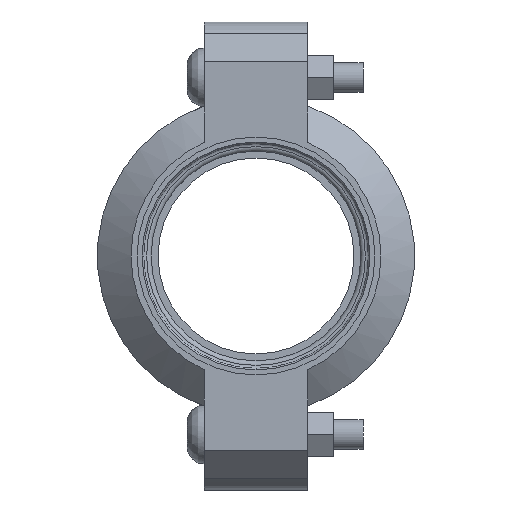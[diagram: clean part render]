
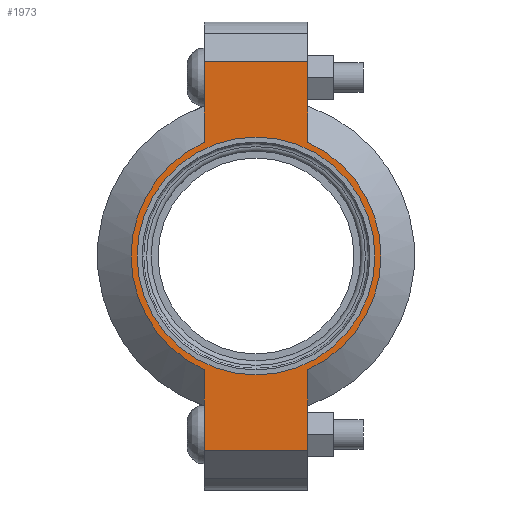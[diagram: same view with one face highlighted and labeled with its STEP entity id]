
A CAD part, left-side view. The second image highlights one B-rep face of the part: STEP entity #1973.
In plain terms, the highlighted planar face has unit normal (-1, 0, 0) as drawn and (0, 0, 1) by its records, which use the part's own axes.
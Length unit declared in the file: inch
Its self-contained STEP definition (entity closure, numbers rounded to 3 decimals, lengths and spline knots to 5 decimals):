
#144=LINE('',#3511,#243);
#157=LINE('',#3555,#256);
#162=LINE('',#3579,#261);
#169=LINE('',#3597,#268);
#176=LINE('',#3622,#275);
#177=LINE('',#3625,#276);
#243=VECTOR('',#2837,0.3937);
#256=VECTOR('',#2866,0.3937);
#261=VECTOR('',#2877,0.3937);
#268=VECTOR('',#2894,0.3937);
#275=VECTOR('',#2915,0.3937);
#276=VECTOR('',#2920,0.3937);
#328=FACE_BOUND('',#578,.T.);
#372=PLANE('',#2314);
#461=FACE_OUTER_BOUND('',#577,.T.);
#577=EDGE_LOOP('',(#1708,#1709,#1710,#1711,#1712,#1713,#1714,#1715));
#578=EDGE_LOOP('',(#1716));
#749=CIRCLE('',#2315,1.575);
#750=CIRCLE('',#2316,1.575);
#751=CIRCLE('',#2317,1.5);
#911=VERTEX_POINT('',#3506);
#912=VERTEX_POINT('',#3510);
#928=VERTEX_POINT('',#3552);
#929=VERTEX_POINT('',#3554);
#935=VERTEX_POINT('',#3574);
#936=VERTEX_POINT('',#3578);
#941=VERTEX_POINT('',#3594);
#942=VERTEX_POINT('',#3596);
#948=VERTEX_POINT('',#3627);
#1159=EDGE_CURVE('',#912,#911,#144,.T.);
#1179=EDGE_CURVE('',#929,#928,#157,.T.);
#1188=EDGE_CURVE('',#936,#935,#162,.T.);
#1197=EDGE_CURVE('',#942,#941,#169,.T.);
#1209=EDGE_CURVE('',#936,#928,#176,.T.);
#1210=EDGE_CURVE('',#935,#942,#749,.T.);
#1211=EDGE_CURVE('',#912,#941,#177,.T.);
#1212=EDGE_CURVE('',#911,#929,#750,.T.);
#1213=EDGE_CURVE('',#948,#948,#751,.T.);
#1708=ORIENTED_EDGE('',*,*,#1209,.F.);
#1709=ORIENTED_EDGE('',*,*,#1188,.T.);
#1710=ORIENTED_EDGE('',*,*,#1210,.T.);
#1711=ORIENTED_EDGE('',*,*,#1197,.T.);
#1712=ORIENTED_EDGE('',*,*,#1211,.F.);
#1713=ORIENTED_EDGE('',*,*,#1159,.T.);
#1714=ORIENTED_EDGE('',*,*,#1212,.T.);
#1715=ORIENTED_EDGE('',*,*,#1179,.T.);
#1716=ORIENTED_EDGE('',*,*,#1213,.T.);
#1973=ADVANCED_FACE('',(#461,#328),#372,.T.);
#2314=AXIS2_PLACEMENT_3D('',#3623,#2916,#2917);
#2315=AXIS2_PLACEMENT_3D('',#3624,#2918,#2919);
#2316=AXIS2_PLACEMENT_3D('',#3626,#2921,#2922);
#2317=AXIS2_PLACEMENT_3D('',#3628,#2923,#2924);
#2837=DIRECTION('',(1.,0.,0.));
#2866=DIRECTION('',(1.,0.,0.));
#2877=DIRECTION('',(-1.,0.,0.));
#2894=DIRECTION('',(-1.,0.,0.));
#2915=DIRECTION('',(0.,-1.,0.));
#2916=DIRECTION('center_axis',(0.,0.,1.));
#2917=DIRECTION('ref_axis',(-1.,0.,0.));
#2918=DIRECTION('center_axis',(0.,0.,1.));
#2919=DIRECTION('ref_axis',(1.,0.,0.));
#2920=DIRECTION('',(0.,1.,0.));
#2921=DIRECTION('center_axis',(0.,0.,1.));
#2922=DIRECTION('ref_axis',(1.,0.,0.));
#2923=DIRECTION('center_axis',(0.,0.,-1.));
#2924=DIRECTION('ref_axis',(1.,0.,0.));
#3506=CARTESIAN_POINT('',(-1.43462,-0.65,0.94));
#3510=CARTESIAN_POINT('',(-2.45,-0.65,0.94));
#3511=CARTESIAN_POINT('',(2.95,-0.65,0.94));
#3552=CARTESIAN_POINT('',(2.45,-0.65,0.94));
#3554=CARTESIAN_POINT('',(1.43462,-0.65,0.94));
#3555=CARTESIAN_POINT('',(2.95,-0.65,0.94));
#3574=CARTESIAN_POINT('',(1.43462,0.65,0.94));
#3578=CARTESIAN_POINT('',(2.45,0.65,0.94));
#3579=CARTESIAN_POINT('',(-2.95,0.65,0.94));
#3594=CARTESIAN_POINT('',(-2.45,0.65,0.94));
#3596=CARTESIAN_POINT('',(-1.43462,0.65,0.94));
#3597=CARTESIAN_POINT('',(-2.95,0.65,0.94));
#3622=CARTESIAN_POINT('',(2.45,-0.325,0.94));
#3623=CARTESIAN_POINT('Origin',(0.,0.,
0.94));
#3624=CARTESIAN_POINT('Origin',(0.,0.,0.94));
#3625=CARTESIAN_POINT('',(-2.45,0.325,0.94));
#3626=CARTESIAN_POINT('Origin',(0.,0.,0.94));
#3627=CARTESIAN_POINT('',(-1.5,0.,0.94));
#3628=CARTESIAN_POINT('Origin',(0.,0.,0.94));
